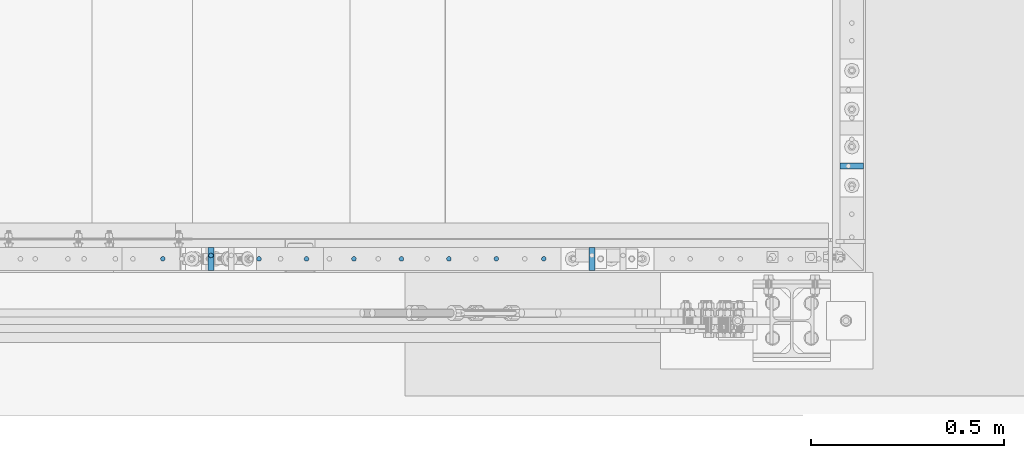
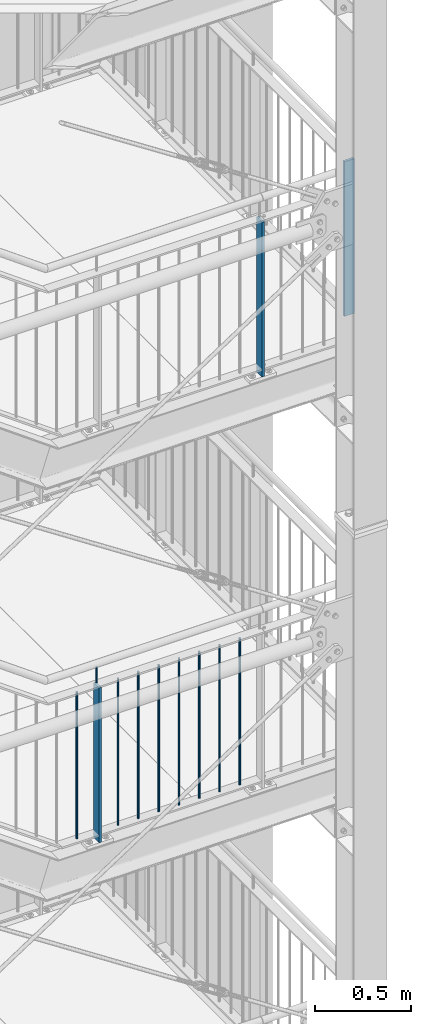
# One storey, part 86 of 831: 12 columns.
"""IFC2X3 building model written with IfcOpenShell, lengths in millimetres."""

from ifc_helpers import new_model, entity, si_unit, converted_unit, frame, origin, origin_with_axes, origin_2d, place, context, project, spatial, rectangle, circle, extrude, clip, halfspace, material, element, save


model = new_model("IFC2X3")

# Units and contexts
model_context = context("Model", 3, precision=1e-09, world=origin_with_axes())
ifc_project = project(units=[si_unit("LENGTHUNIT", "METRE", prefix="MILLI"), si_unit("AREAUNIT", "SQUARE_METRE"), si_unit("VOLUMEUNIT", "CUBIC_METRE"), converted_unit("PLANEANGLEUNIT", "DEGREE", entity("IfcPlaneAngleMeasure", 0.01745329), si_unit("PLANEANGLEUNIT", "RADIAN"), dimensions=[0, 0, 0, 0, 0, 0, 0])], contexts=[model_context])

# Site, building, storey
site_placement = place(None, origin_with_axes())
site = spatial("IfcSite", under=ifc_project, at=site_placement, Name="Site", CompositionType="ELEMENT")
building_placement = place(site_placement, origin_with_axes())
building = spatial("IfcBuilding", under=site, at=building_placement, Name="Struktur 1", CompositionType="ELEMENT")
storey_placement = place(building_placement, origin_with_axes())
storey = spatial("IfcBuildingStorey", under=building, at=storey_placement, Name="Default Storey", CompositionType="ELEMENT", Elevation=0.0)

# Columns
ifc_material = material(Name="S235JR")
column_1_placement = place(None, frame((9021.713402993, 4766.735971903, 14936.223292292), z_axis=(0.0, 0.0, 1.0), x_axis=(0.0, -1.0, 0.0)))
element("IfcColumn", 1, at=column_1_placement, inside=storey, material=ifc_material, Name="Railing_Post_Landing#7", ObjectType="Railing_Post_Landing#7", context=model_context, shape_type="Clipping", body=[
    clip(clip(extrude(rectangle(XDim=15.0, YDim=60.0, at=origin_2d()), origin(), (0.0, 0.0, -1.0), 1070.646584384), halfspace(frame((4766.735971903, -9021.713402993, -1019.722292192), z_axis=(0.0, 0.0, 1.0), x_axis=(0.0, 1.0, 0.0)), True)), halfspace(frame((4766.735971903, -9021.713402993, -30.924292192), z_axis=(0.0, 0.0, -1.0), x_axis=(0.0, -1.0, 0.0)), True)),
])
column_2_placement = place(None, frame((8349.792260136, 4526.736971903, 14936.223292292), z_axis=(0.0, 0.0, 1.0), x_axis=(-1.0, 0.0, 0.0)))
element("IfcColumn", 2, at=column_2_placement, inside=storey, material=ifc_material, Name="Railing_Post_Landing#8", ObjectType="Railing_Post_Landing#8", context=model_context, shape_type="Clipping", body=[
    clip(clip(extrude(rectangle(XDim=15.0, YDim=60.0, at=origin_2d()), origin(), (0.0, 0.0, -1.0), 1070.646584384), halfspace(frame((8349.792260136, 4526.736971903, -1019.722292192), z_axis=(0.0, 0.0, 1.0), x_axis=(-1.0, 0.0, 0.0)), True)), halfspace(frame((8349.792260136, 4526.736971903, -30.924292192), z_axis=(0.0, 0.0, -1.0), x_axis=(1.0, 0.0, 0.0)), True)),
])
column_3_placement = place(None, frame((7364.792117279, 4526.736971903, 12305.223292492), z_axis=(0.0, 0.0, 1.0), x_axis=(-1.0, 0.0, 0.0)))
element("IfcColumn", 3, at=column_3_placement, inside=storey, material=ifc_material, Name="Railing_Post_Landing#9", ObjectType="Railing_Post_Landing#9", context=model_context, shape_type="Clipping", body=[
    clip(clip(extrude(rectangle(XDim=15.0, YDim=60.0, at=origin_2d()), origin(), (0.0, 0.0, -1.0), 1070.646584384), halfspace(frame((7364.792117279, 4526.736971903, -1019.722292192), z_axis=(0.0, 0.0, 1.0), x_axis=(-1.0, 0.0, 0.0)), True)), halfspace(frame((7364.792117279, 4526.736971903, -30.924292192), z_axis=(0.0, 0.0, -1.0), x_axis=(1.0, 0.0, 0.0)), True)),
])
column_4_placement = place(None, frame((8225.542260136, 4526.736971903, 12287.785281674), z_axis=(0.0, 0.0, 1.0), x_axis=(-1.0, 0.0, 0.0)))
element("IfcColumn", 4, at=column_4_placement, inside=storey, material=ifc_material, Name="Railing_Picket_Landing#55", ObjectType="Railing_Picket_Landing#55", context=model_context, shape_type="Clipping", body=[
    clip(clip(extrude(circle(Radius=6.0, at=origin_2d()), origin(), (0.0, 0.0, -1.0), 965.770562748), halfspace(frame((8225.542260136, 4526.736971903, -13.486281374), z_axis=(0.0, 0.0, -1.0), x_axis=(1.0, 0.0, 0.0)), True)), halfspace(frame((8225.542260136, 4526.736971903, -952.284281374), z_axis=(0.0, 0.0, 1.0), x_axis=(-1.0, 0.0, 0.0)), True)),
])
column_5_placement = place(None, frame((8102.792236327, 4526.736971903, 12287.785281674), z_axis=(0.0, 0.0, 1.0), x_axis=(-1.0, 0.0, 0.0)))
element("IfcColumn", 5, at=column_5_placement, inside=storey, material=ifc_material, Name="Railing_Picket_Landing#56", ObjectType="Railing_Picket_Landing#56", context=model_context, shape_type="Clipping", body=[
    clip(clip(extrude(circle(Radius=6.0, at=origin_2d()), origin(), (0.0, 0.0, -1.0), 965.770562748), halfspace(frame((8102.792236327, 4526.736971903, -13.486281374), z_axis=(0.0, 0.0, -1.0), x_axis=(1.0, 0.0, 0.0)), True)), halfspace(frame((8102.792236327, 4526.736971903, -952.284281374), z_axis=(0.0, 0.0, 1.0), x_axis=(-1.0, 0.0, 0.0)), True)),
])
column_6_placement = place(None, frame((7980.042212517, 4526.736971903, 12287.785281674), z_axis=(0.0, 0.0, 1.0), x_axis=(-1.0, 0.0, 0.0)))
element("IfcColumn", 6, at=column_6_placement, inside=storey, material=ifc_material, Name="Railing_Picket_Landing#57", ObjectType="Railing_Picket_Landing#57", context=model_context, shape_type="Clipping", body=[
    clip(clip(extrude(circle(Radius=6.0, at=origin_2d()), origin(), (0.0, 0.0, -1.0), 965.770562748), halfspace(frame((7980.042212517, 4526.736971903, -13.486281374), z_axis=(0.0, 0.0, -1.0), x_axis=(1.0, 0.0, 0.0)), True)), halfspace(frame((7980.042212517, 4526.736971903, -952.284281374), z_axis=(0.0, 0.0, 1.0), x_axis=(-1.0, 0.0, 0.0)), True)),
])
column_7_placement = place(None, frame((7857.292188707, 4526.736971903, 12287.785281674), z_axis=(0.0, 0.0, 1.0), x_axis=(-1.0, 0.0, 0.0)))
element("IfcColumn", 7, at=column_7_placement, inside=storey, material=ifc_material, Name="Railing_Picket_Landing#58", ObjectType="Railing_Picket_Landing#58", context=model_context, shape_type="Clipping", body=[
    clip(clip(extrude(circle(Radius=6.0, at=origin_2d()), origin(), (0.0, 0.0, -1.0), 965.770562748), halfspace(frame((7857.292188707, 4526.736971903, -13.486281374), z_axis=(0.0, 0.0, -1.0), x_axis=(1.0, 0.0, 0.0)), True)), halfspace(frame((7857.292188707, 4526.736971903, -952.284281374), z_axis=(0.0, 0.0, 1.0), x_axis=(-1.0, 0.0, 0.0)), True)),
])
column_8_placement = place(None, frame((7734.542164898, 4526.736971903, 12287.785281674), z_axis=(0.0, 0.0, 1.0), x_axis=(-1.0, 0.0, 0.0)))
element("IfcColumn", 8, at=column_8_placement, inside=storey, material=ifc_material, Name="Railing_Picket_Landing#59", ObjectType="Railing_Picket_Landing#59", context=model_context, shape_type="Clipping", body=[
    clip(clip(extrude(circle(Radius=6.0, at=origin_2d()), origin(), (0.0, 0.0, -1.0), 965.770562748), halfspace(frame((7734.542164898, 4526.736971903, -13.486281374), z_axis=(0.0, 0.0, -1.0), x_axis=(1.0, 0.0, 0.0)), True)), halfspace(frame((7734.542164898, 4526.736971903, -952.284281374), z_axis=(0.0, 0.0, 1.0), x_axis=(-1.0, 0.0, 0.0)), True)),
])
column_9_placement = place(None, frame((7611.792141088, 4526.736971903, 12287.785281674), z_axis=(0.0, 0.0, 1.0), x_axis=(-1.0, 0.0, 0.0)))
element("IfcColumn", 9, at=column_9_placement, inside=storey, material=ifc_material, Name="Railing_Picket_Landing#60", ObjectType="Railing_Picket_Landing#60", context=model_context, shape_type="Clipping", body=[
    clip(clip(extrude(circle(Radius=6.0, at=origin_2d()), origin(), (0.0, 0.0, -1.0), 965.770562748), halfspace(frame((7611.792141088, 4526.736971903, -13.486281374), z_axis=(0.0, 0.0, -1.0), x_axis=(1.0, 0.0, 0.0)), True)), halfspace(frame((7611.792141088, 4526.736971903, -952.284281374), z_axis=(0.0, 0.0, 1.0), x_axis=(-1.0, 0.0, 0.0)), True)),
])
column_10_placement = place(None, frame((7489.042117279, 4526.736971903, 12287.785281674), z_axis=(0.0, 0.0, 1.0), x_axis=(-1.0, 0.0, 0.0)))
element("IfcColumn", 10, at=column_10_placement, inside=storey, material=ifc_material, Name="Railing_Picket_Landing#61", ObjectType="Railing_Picket_Landing#61", context=model_context, shape_type="Clipping", body=[
    clip(clip(extrude(circle(Radius=6.0, at=origin_2d()), origin(), (0.0, 0.0, -1.0), 965.770562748), halfspace(frame((7489.042117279, 4526.736971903, -13.486281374), z_axis=(0.0, 0.0, -1.0), x_axis=(1.0, 0.0, 0.0)), True)), halfspace(frame((7489.042117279, 4526.736971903, -952.284281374), z_axis=(0.0, 0.0, 1.0), x_axis=(-1.0, 0.0, 0.0)), True)),
])
column_11_placement = place(None, frame((7240.542117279, 4526.736971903, 12287.785281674), z_axis=(0.0, 0.0, 1.0), x_axis=(-1.0, 0.0, 0.0)))
element("IfcColumn", 11, at=column_11_placement, inside=storey, material=ifc_material, Name="Railing_Picket_Landing#62", ObjectType="Railing_Picket_Landing#62", context=model_context, shape_type="Clipping", body=[
    clip(clip(extrude(circle(Radius=6.0, at=origin_2d()), origin(), (0.0, 0.0, -1.0), 965.770562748), halfspace(frame((7240.542117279, 4526.736971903, -13.486281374), z_axis=(0.0, 0.0, -1.0), x_axis=(1.0, 0.0, 0.0)), True)), halfspace(frame((7240.542117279, 4526.736971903, -952.284281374), z_axis=(0.0, 0.0, 1.0), x_axis=(-1.0, 0.0, 0.0)), True)),
])
column_12_placement = place(None, frame((7364.792117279, 4535.536971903, 12392.785281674), z_axis=(0.0, 0.0, 1.0), x_axis=(0.0, 1.0, 0.0)))
element("IfcColumn", 12, at=column_12_placement, inside=storey, material=ifc_material, Name="Bar#9", ObjectType="Bar#9", context=model_context, shape_type="Clipping", body=[
    clip(clip(extrude(circle(Radius=6.0, at=origin_2d()), origin(), (0.0, 0.0, -1.0), 116.970562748), halfspace(frame((-4535.536971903, 7364.792117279, -8.486281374), z_axis=(0.0, 0.0, -1.0), x_axis=(0.0, 1.0, 0.0)), True)), halfspace(frame((-4535.536971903, 7364.792117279, -108.484281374), z_axis=(0.0, 0.0, 1.0), x_axis=(0.0, -1.0, 0.0)), True)),
])

save(model, "model.ifc")
